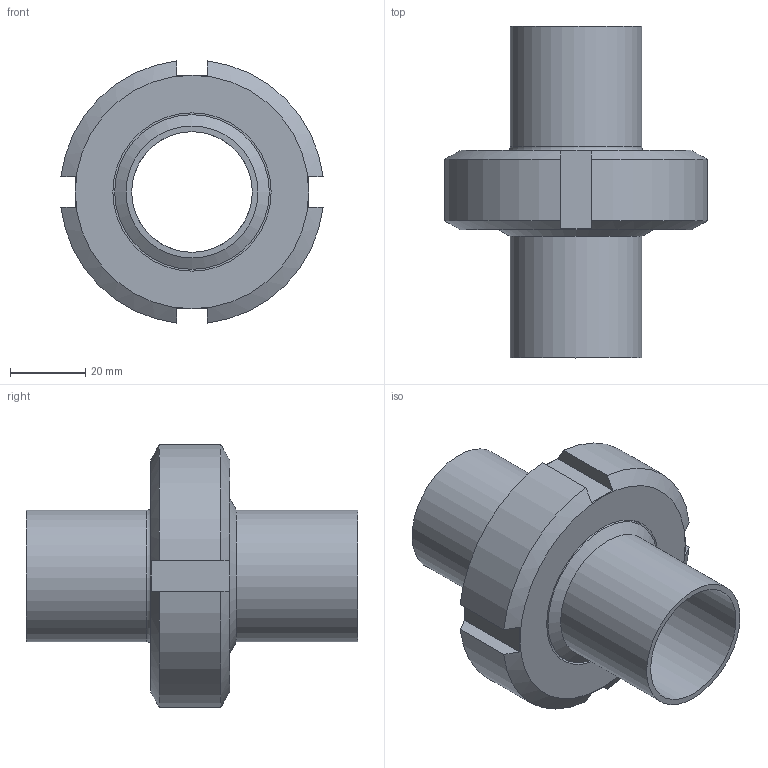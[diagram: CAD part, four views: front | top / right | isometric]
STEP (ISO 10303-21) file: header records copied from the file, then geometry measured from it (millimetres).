
FILE_DESCRIPTION(/* description */ ('Aseptik_Rohrverbindung_DIN 11864-1-A_35x1,50_L88'),/* implementation_level */ '2;1');
FILE_NAME(/* name */ 'L:\Normteile\N0024 - Rohrverbindungen\N0024_002 - DIN11864\N0024_002_001 - geschraubt\N0024_002_001\Step Marketing\DIN11864-1-A_35x1,50_L88.stp',/* time_stamp */ '2021-08-31T10:19:08+02:00',/* author */ ('Csasse'),/* organization */ ('Dockweiler AG'),/* preprocessor_version */ 'ST-DEVELOPER v18',/* originating_system */ 'Autodesk Inventor 2020',/* authorisation */ '');
FILE_SCHEMA (('AUTOMOTIVE_DESIGN { 1 0 10303 214 3 1 1 }'));
Length unit declared in the file: millimetre
Products named in the file (5): N0024_002_001_33; N0003_007_001_05; N0003_007_002_05; N0005_005_002_001_04; N0009_009_15
Assembly tree (4 placements, depth 2):
  N0024_002_001_33
    N0003_007_001_05
    N0003_007_002_05
    N0005_005_002_001_04
    N0009_009_15
Bounding box: 69.54 x 88 x 69.54 mm (x, y, z)
Volume: 72394.4 mm3; surface area: 41636.3 mm2
Topology: 4 solids, 4 shells, 60 faces, 176 edges, 128 vertices
Faces by surface type: plane 24, cylinder 14, torus 12, cone 10
Full cylindrical faces by diameter (mm): 32 x2, 35 x2, 41 x1, 42 x1, 48.9 x1, 49 x1, 53.767 x1, 58.423 x1
Entity records: 2344 total; most frequent: CARTESIAN_POINT 425, DIRECTION 402, ORIENTED_EDGE 352, AXIS2_PLACEMENT_3D 183, EDGE_CURVE 176, VERTEX_POINT 128, CIRCLE 114, EDGE_LOOP 72
